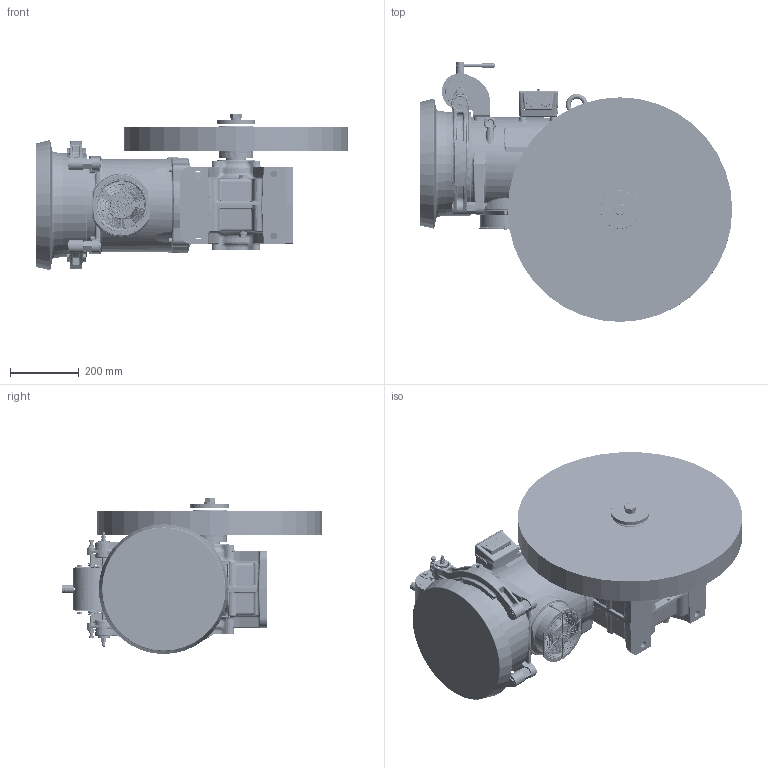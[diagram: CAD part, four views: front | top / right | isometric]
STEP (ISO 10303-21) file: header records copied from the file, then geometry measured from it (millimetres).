
FILE_DESCRIPTION((''),'2;1');
FILE_NAME('00383435_SW0001','2021-11-17T',('pietrobellog'),('Sicor spa'),'CREO PARAMETRIC BY PTC INC, 2017170','CREO PARAMETRIC BY PTC INC, 2017170','');
FILE_SCHEMA(('CONFIG_CONTROL_DESIGN'));
Products named in the file (1): 00383435_SW0001
Bounding box: 910 x 757 x 454.79 mm (x, y, z)
Surface area: 3347677.4 mm2 (no closed solid volume)
Topology: 0 solids, 278 shells, 4146 faces, 12797 edges, 8555 vertices
Faces by surface type: bspline 1341, cylinder 1018, plane 978, cone 398, torus 338, sphere 72, extrusion 1
Entity records: 259042 total; most frequent: CARTESIAN_POINT 160495, ORIENTED_EDGE 20884, DIRECTION 17533, EDGE_CURVE 12785, VERTEX_POINT 8555, AXIS2_PLACEMENT_3D 6976, B_SPLINE_CURVE_WITH_KNOTS 5034, CIRCLE 4172
